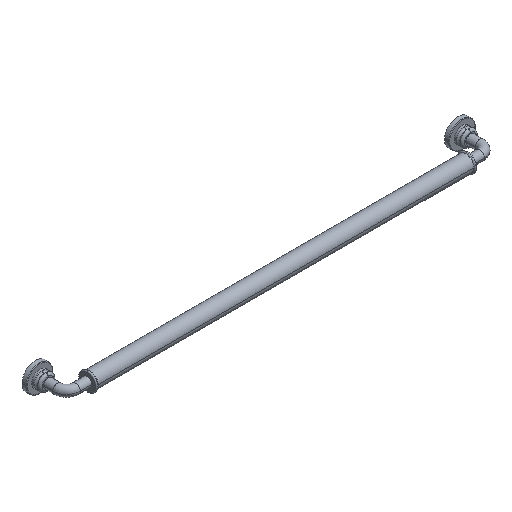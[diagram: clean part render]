
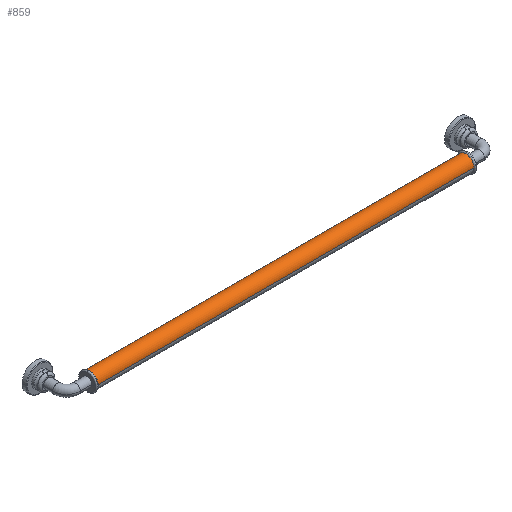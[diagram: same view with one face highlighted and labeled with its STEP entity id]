
A CAD part, isometric view. The second image highlights one B-rep face of the part: STEP entity #859.
In plain terms, the highlighted cylindrical face has radius 7 mm (diameter 14 mm), a partial arc.
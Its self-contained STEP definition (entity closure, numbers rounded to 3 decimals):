
#679 = EDGE_CURVE( '', #1421, #1273, #1648, .T. );
#705 = EDGE_CURVE( '', #1273, #891, #1678, .T. );
#859 = ADVANCED_FACE( '', ( #1845 ), #1846, .T. );
#891 = VERTEX_POINT( '', #1880 );
#1143 = EDGE_CURVE( '', #1287, #891, #2162, .T. );
#1243 = EDGE_CURVE( '', #1287, #1421, #2271, .T. );
#1273 = VERTEX_POINT( '', #2301 );
#1287 = VERTEX_POINT( '', #2315 );
#1421 = VERTEX_POINT( '', #2470 );
#1648 = CIRCLE( '', #2738, 7. );
#1678 = LINE( '', #2773, #2774 );
#1845 = FACE_OUTER_BOUND( '', #2988, .T. );
#1846 = CYLINDRICAL_SURFACE( '', #2989, 7. );
#1880 = CARTESIAN_POINT( '', ( 20., -20., 0. ) );
#2162 = CIRCLE( '', #3390, 7. );
#2271 = LINE( '', #3608, #3609 );
#2301 = CARTESIAN_POINT( '', ( 345., -20., 0. ) );
#2315 = CARTESIAN_POINT( '', ( 20., -34., 0. ) );
#2470 = CARTESIAN_POINT( '', ( 345., -34., 0. ) );
#2738 = AXIS2_PLACEMENT_3D( '', #4144, #4145, #4146 );
#2773 = CARTESIAN_POINT( '', ( 182.5, -20., 0. ) );
#2774 = VECTOR( '', #4195, 1. );
#2988 = EDGE_LOOP( '', ( #4419, #4420, #4421, #4422 ) );
#2989 = AXIS2_PLACEMENT_3D( '', #4423, #4424, #4425 );
#3390 = AXIS2_PLACEMENT_3D( '', #4883, #4884, #4885 );
#3608 = CARTESIAN_POINT( '', ( 182.5, -34., 0. ) );
#3609 = VECTOR( '', #5014, 1. );
#4144 = CARTESIAN_POINT( '', ( 345., -27., 0. ) );
#4145 = DIRECTION( '', ( -1., 0., 0. ) );
#4146 = DIRECTION( '', ( 0., 1., 0. ) );
#4195 = DIRECTION( '', ( -1., 0., 0. ) );
#4419 = ORIENTED_EDGE( '', *, *, #705, .T. );
#4420 = ORIENTED_EDGE( '', *, *, #1143, .F. );
#4421 = ORIENTED_EDGE( '', *, *, #1243, .T. );
#4422 = ORIENTED_EDGE( '', *, *, #679, .T. );
#4423 = CARTESIAN_POINT( '', ( 182.5, -27., 0. ) );
#4424 = DIRECTION( '', ( 1., 0., 0. ) );
#4425 = DIRECTION( '', ( 0., 1., 0. ) );
#4883 = CARTESIAN_POINT( '', ( 20., -27., 0. ) );
#4884 = DIRECTION( '', ( -1., 0., 0. ) );
#4885 = DIRECTION( '', ( 0., 1., 0. ) );
#5014 = DIRECTION( '', ( 1., 0., 0. ) );
